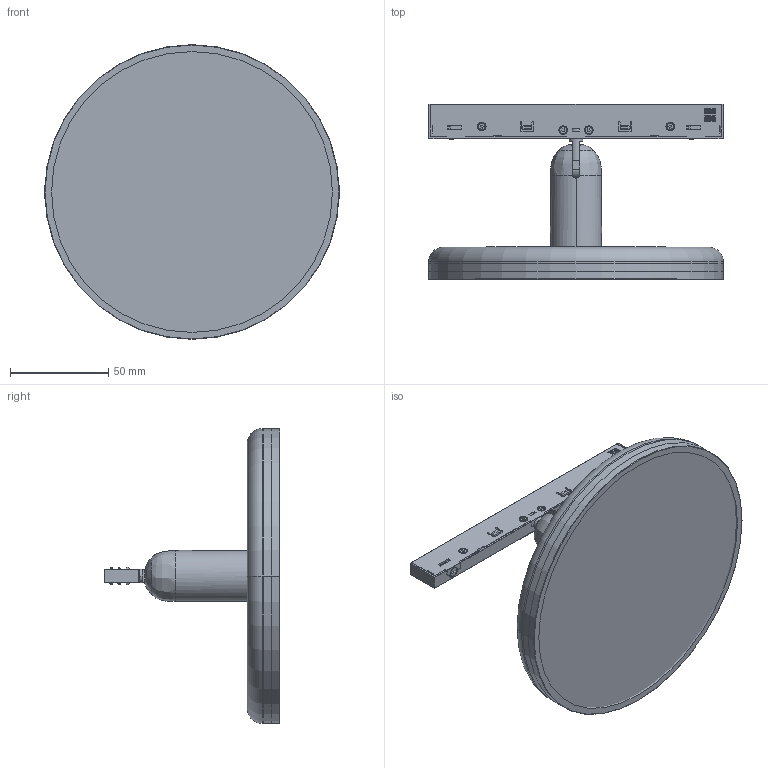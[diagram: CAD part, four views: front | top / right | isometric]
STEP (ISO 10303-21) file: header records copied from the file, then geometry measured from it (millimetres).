
FILE_DESCRIPTION (( 'STEP AP203' ), '1' );
FILE_NAME ('FR0015-FR0016 Frisbee.STEP', '2025-08-02T07:37:06', ( '' ), ( '' ), 'SwSTEP 2.0', 'SolidWorks 2020', '' );
FILE_SCHEMA (( 'CONFIG_CONTROL_DESIGN' ));
Length unit declared in the file: millimetre
Products named in the file (16): KC-0006-0201.stp; M2_5-01.stp.STEP; KC-0006-0241.stp; KC-0006-0240.stp; KC-0006-0182.stp; KC-0006-0301.stp.STEP; KC-0006-0302.stp.STEP; 萇ん碟2.STEP; KC-0006-0169.stp; KC-0006-0178.stp; KC-0006-0235.stp; M2_5_5-01.stp; FR0015-FR0016 Frisbee; KC-0006-0183.stp; KC-0006-0303.stp.STEP; KC-0006-0004.stp.STEP
Assembly tree (23 placements, depth 3):
  FR0015-FR0016 Frisbee
    萇ん碟2.STEP
      KC-0006-0301.stp.STEP
      KC-0006-0303.stp.STEP  x2
      KC-0006-0302.stp.STEP
      KC-0006-0004.stp.STEP  x4
      M2_5-01.stp.STEP  x4
    KC-0006-0178.stp
    KC-0006-0169.stp
    KC-0006-0235.stp
    M2_5_5-01.stp  x2
    KC-0006-0240.stp
    KC-0006-0241.stp
    KC-0006-0182.stp
    KC-0006-0183.stp
    KC-0006-0201.stp
Bounding box: 150 x 89.3 x 150 mm (x, y, z)
Volume: 175706.5 mm3; surface area: 186304.4 mm2
Topology: 22 solids, 29 shells, 1502 faces, 4052 edges, 2608 vertices
Faces by surface type: plane 798, cylinder 466, cone 96, bspline 92, torus 26, sphere 24
Entity records: 41029 total; most frequent: CARTESIAN_POINT 11962, ORIENTED_EDGE 5932, DIRECTION 5247, EDGE_CURVE 2966, VECTOR 2077, LINE 2077, VERTEX_POINT 1924, AXIS2_PLACEMENT_3D 1585
